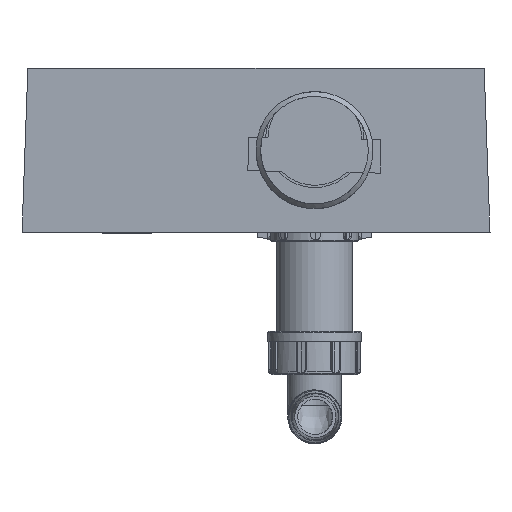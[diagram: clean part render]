
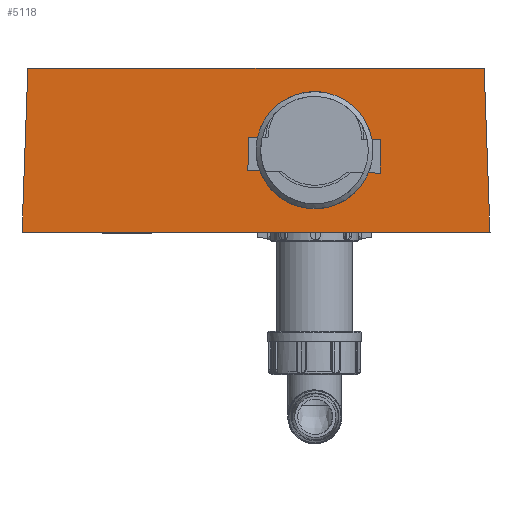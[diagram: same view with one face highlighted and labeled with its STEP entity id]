
A CAD part, left-side view. The second image highlights one B-rep face of the part: STEP entity #5118.
In plain terms, the highlighted planar face has unit normal (-1, 0, 0) as drawn and (0, -1, 0) by its records, which use the part's own axes.
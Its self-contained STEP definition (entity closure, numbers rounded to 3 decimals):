
#319=LINE('',#8249,#795);
#321=LINE('',#8253,#797);
#323=LINE('',#8257,#799);
#324=LINE('',#8258,#800);
#795=VECTOR('',#6408,10.);
#797=VECTOR('',#6412,10.);
#799=VECTOR('',#6416,10.);
#800=VECTOR('',#6417,10.);
#1163=PLANE('',#5619);
#1362=FACE_BOUND('',#1857,.T.);
#1509=FACE_OUTER_BOUND('',#1856,.T.);
#1856=EDGE_LOOP('',(#3970,#3971,#3972,#3973));
#1857=EDGE_LOOP('',(#3974));
#2150=CIRCLE('',#5599,5.14);
#2487=VERTEX_POINT('',#8218);
#2496=VERTEX_POINT('',#8246);
#2497=VERTEX_POINT('',#8248);
#2498=VERTEX_POINT('',#8252);
#2499=VERTEX_POINT('',#8256);
#3024=EDGE_CURVE('',#2487,#2487,#2150,.T.);
#3034=EDGE_CURVE('',#2496,#2497,#319,.T.);
#3036=EDGE_CURVE('',#2498,#2497,#321,.T.);
#3038=EDGE_CURVE('',#2496,#2499,#323,.T.);
#3039=EDGE_CURVE('',#2499,#2498,#324,.T.);
#3970=ORIENTED_EDGE('',*,*,#3036,.T.);
#3971=ORIENTED_EDGE('',*,*,#3034,.F.);
#3972=ORIENTED_EDGE('',*,*,#3038,.T.);
#3973=ORIENTED_EDGE('',*,*,#3039,.T.);
#3974=ORIENTED_EDGE('',*,*,#3024,.T.);
#5118=ADVANCED_FACE('',(#1509,#1362),#1163,.T.);
#5599=AXIS2_PLACEMENT_3D('',#8219,#6369,#6370);
#5619=AXIS2_PLACEMENT_3D('',#8255,#6414,#6415);
#6369=DIRECTION('center_axis',(0.,1.,0.));
#6370=DIRECTION('ref_axis',(-1.,0.,0.));
#6408=DIRECTION('',(0.,0.,-1.));
#6412=DIRECTION('',(0.999,0.,-0.036));
#6414=DIRECTION('center_axis',(0.,-1.,0.));
#6415=DIRECTION('ref_axis',(0.,0.,-1.));
#6416=DIRECTION('',(-0.999,0.,-0.036));
#6417=DIRECTION('',(0.,0.,-1.));
#8218=CARTESIAN_POINT('',(40.14,-270.,-75.));
#8219=CARTESIAN_POINT('Origin',(35.,-270.,-75.));
#8246=CARTESIAN_POINT('',(70.,-270.,0.));
#8248=CARTESIAN_POINT('',(70.,-270.,-200.));
#8249=CARTESIAN_POINT('',(70.,-270.,0.));
#8252=CARTESIAN_POINT('',(0.,-270.,-197.5));
#8253=CARTESIAN_POINT('',(31.478,-270.,-198.624));
#8255=CARTESIAN_POINT('Origin',(0.,-270.,0.));
#8256=CARTESIAN_POINT('',(0.,-270.,-2.5));
#8257=CARTESIAN_POINT('',(35.045,-270.,-1.248));
#8258=CARTESIAN_POINT('',(0.,-270.,0.));
